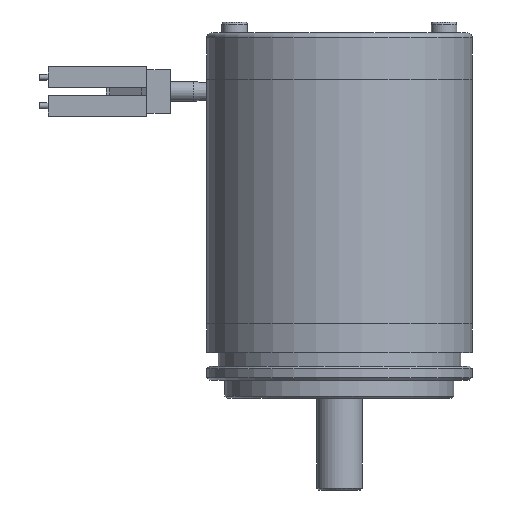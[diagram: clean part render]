
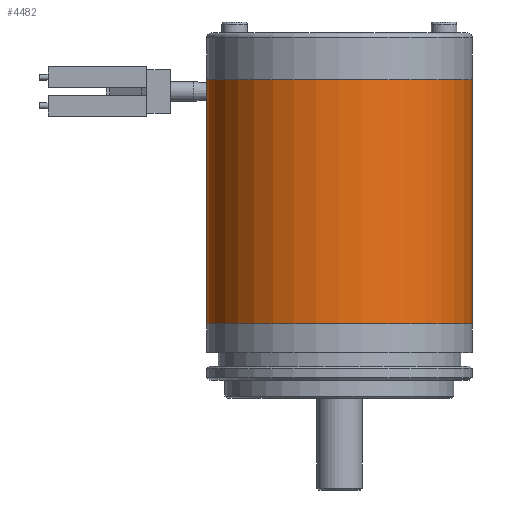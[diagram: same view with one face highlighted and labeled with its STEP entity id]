
A CAD part, front view. The second image highlights one B-rep face of the part: STEP entity #4482.
In plain terms, the highlighted cylindrical face has radius 28.969 mm (diameter 57.937 mm), a partial arc.
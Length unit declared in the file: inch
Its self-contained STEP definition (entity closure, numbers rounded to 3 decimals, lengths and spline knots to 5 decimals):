
#1 = VERTEX_POINT ( 'NONE', #4169 ) ;
#62 = DIRECTION ( 'NONE',  ( 0., 0., 1. ) ) ;
#329 = FACE_OUTER_BOUND ( 'NONE', #984, .T. ) ;
#371 = VERTEX_POINT ( 'NONE', #1977 ) ;
#472 = EDGE_CURVE ( 'NONE', #856, #1, #5541, .T. ) ;
#758 = ORIENTED_EDGE ( 'NONE', *, *, #6135, .F. ) ;
#856 = VERTEX_POINT ( 'NONE', #4126 ) ;
#860 = AXIS2_PLACEMENT_3D ( 'NONE', #1747, #4579, #3126 ) ;
#980 = DIRECTION ( 'NONE',  ( 0., 0., -1. ) ) ;
#984 = EDGE_LOOP ( 'NONE', ( #5888, #758, #5139, #4444 ) ) ;
#1747 = CARTESIAN_POINT ( 'NONE',  ( 0., 0., 2.74 ) ) ;
#1839 = EDGE_CURVE ( 'NONE', #3330, #1, #3354, .T. ) ;
#1977 = CARTESIAN_POINT ( 'NONE',  ( -1.1405, 0., 2.74 ) ) ;
#2622 = DIRECTION ( 'NONE',  ( 0., 0., 1. ) ) ;
#2746 = CYLINDRICAL_SURFACE ( 'NONE', #860, 1.1405 ) ;
#2861 = EDGE_CURVE ( 'NONE', #371, #3330, #4175, .T. ) ;
#2949 = CARTESIAN_POINT ( 'NONE',  ( 0., 0., 0.64 ) ) ;
#3036 = VECTOR ( 'NONE', #5050, 39.37008 ) ;
#3126 = DIRECTION ( 'NONE',  ( -1., 0., 0. ) ) ;
#3330 = VERTEX_POINT ( 'NONE', #5777 ) ;
#3354 = CIRCLE ( 'NONE', #6073, 1.1405 ) ;
#3429 = DIRECTION ( 'NONE',  ( 1., 0., 0. ) ) ;
#4126 = CARTESIAN_POINT ( 'NONE',  ( 1.1405, 0., 2.74 ) ) ;
#4169 = CARTESIAN_POINT ( 'NONE',  ( 1.1405, 0., 0.64 ) ) ;
#4175 = LINE ( 'NONE', #5221, #5246 ) ;
#4444 = ORIENTED_EDGE ( 'NONE', *, *, #1839, .T. ) ;
#4482 = ADVANCED_FACE ( 'NONE', ( #329 ), #2746, .T. ) ;
#4579 = DIRECTION ( 'NONE',  ( 0., 0., -1. ) ) ;
#4631 = CIRCLE ( 'NONE', #6145, 1.1405 ) ;
#5050 = DIRECTION ( 'NONE',  ( 0., 0., -1. ) ) ;
#5139 = ORIENTED_EDGE ( 'NONE', *, *, #2861, .T. ) ;
#5221 = CARTESIAN_POINT ( 'NONE',  ( -1.1405, 0., 2.74 ) ) ;
#5246 = VECTOR ( 'NONE', #980, 39.37008 ) ;
#5437 = CARTESIAN_POINT ( 'NONE',  ( 0., 0., 2.74 ) ) ;
#5516 = CARTESIAN_POINT ( 'NONE',  ( 1.1405, 0., 2.74 ) ) ;
#5541 = LINE ( 'NONE', #5516, #3036 ) ;
#5777 = CARTESIAN_POINT ( 'NONE',  ( -1.1405, 0., 0.64 ) ) ;
#5886 = DIRECTION ( 'NONE',  ( 1., 0., 0. ) ) ;
#5888 = ORIENTED_EDGE ( 'NONE', *, *, #472, .F. ) ;
#6073 = AXIS2_PLACEMENT_3D ( 'NONE', #2949, #62, #3429 ) ;
#6135 = EDGE_CURVE ( 'NONE', #371, #856, #4631, .T. ) ;
#6145 = AXIS2_PLACEMENT_3D ( 'NONE', #5437, #2622, #5886 ) ;
